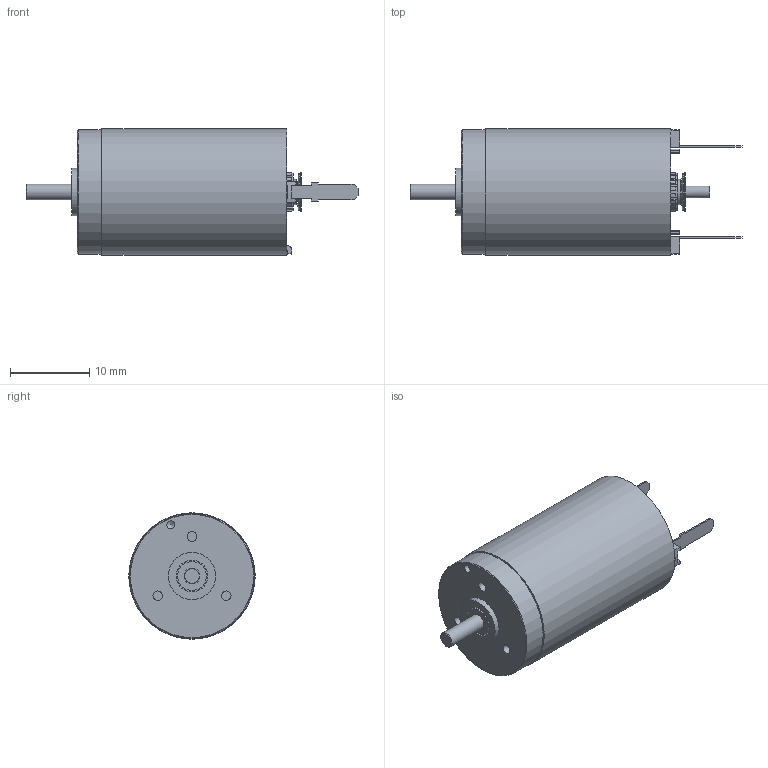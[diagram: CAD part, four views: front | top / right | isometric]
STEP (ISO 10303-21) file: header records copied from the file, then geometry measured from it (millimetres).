
FILE_DESCRIPTION(/* description */ (''),/* implementation_level */ '2;1');
FILE_NAME(/* name */ 'C:\Users\raffaele\Downloads\Projects\E&D\ipt-to-step-conversion\16DC26N-PM_G.stp',/* time_stamp */ '2021-02-10T15:33:52+01:00',/* author */ ('AOM'),/* organization */ (''),/* preprocessor_version */ 'ST-DEVELOPER v18',/* originating_system */ 'Autodesk Inventor 2020',/* authorisation */ '');
FILE_SCHEMA (('AUTOMOTIVE_DESIGN { 1 0 10303 214 3 1 1 }'));
Length unit declared in the file: millimetre
Products named in the file (1): DCX 16 S - 16DC26N-PM
Bounding box: 42 x 16 x 16 mm (x, y, z)
Volume: 2394.8 mm3; surface area: 4071.1 mm2
Topology: 9 solids, 11 shells, 584 faces, 1577 edges, 1043 vertices
Faces by surface type: plane 298, cylinder 244, bspline 18, cone 17, torus 6, sphere 1
Full cylindrical faces by diameter (mm): 0.4 x2, 0.6 x1, 0.8 x4, 1 x1, 1.2 x2, 1.221 x3, 1.5 x4, 2 x3, 3.2 x1, 3.65 x1, 4 x1, 4.4 x1, 4.5 x1, 4.6 x1, 4.9 x1, 5 x1, 6 x2, 7 x1, 15 x2, 15.1 x1, 15.8 x1, 16 x1
Entity records: 19421 total; most frequent: CARTESIAN_POINT 4092, ORIENTED_EDGE 3152, DIRECTION 3046, EDGE_CURVE 1576, AXIS2_PLACEMENT_3D 1108, VERTEX_POINT 1043, LINE 830, VECTOR 830
